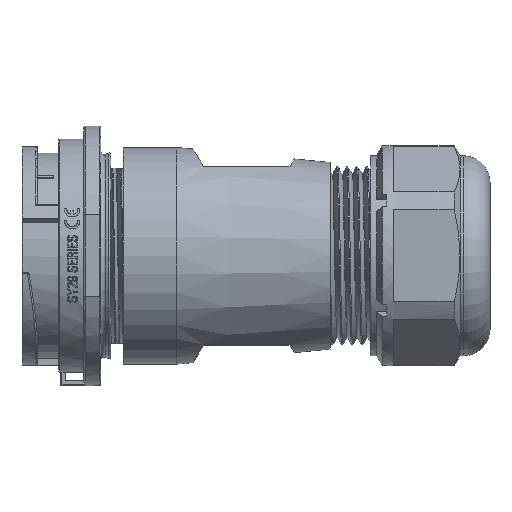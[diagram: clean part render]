
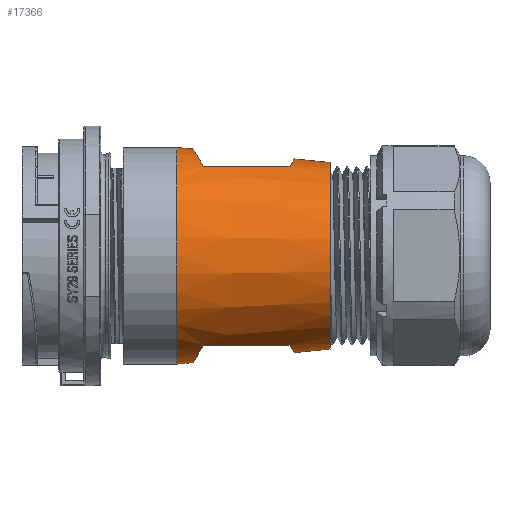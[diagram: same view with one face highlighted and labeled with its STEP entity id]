
A CAD part, top view. The second image highlights one B-rep face of the part: STEP entity #17366.
In plain terms, the highlighted conical face has half-angle 5.587 degrees and reference radius 15.125 mm.
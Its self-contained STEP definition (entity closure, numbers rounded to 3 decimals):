
#5836=CARTESIAN_POINT('',(23.2,22.406,-22.407));
#5837=DIRECTION('',(1.,0.,0.));
#5838=DIRECTION('',(0.,1.,0.));
#5839=AXIS2_PLACEMENT_3D('',#5836,#5837,#5838);
#5841=CARTESIAN_POINT('',(25.695,38.412,-22.407));
#5842=CARTESIAN_POINT('',(25.695,38.412,-20.82));
#5843=CARTESIAN_POINT('',(25.976,37.927,-17.84));
#5844=CARTESIAN_POINT('',(26.711,36.653,-15.174));
#5845=CARTESIAN_POINT('',(27.2,35.806,-13.925));
#5847=CARTESIAN_POINT('',(40.2,35.806,-16.643));
#5848=CARTESIAN_POINT('',(38.928,35.806,-16.328));
#5849=CARTESIAN_POINT('',(36.268,35.806,-15.713));
#5850=CARTESIAN_POINT('',(31.942,35.806,-14.814));
#5851=CARTESIAN_POINT('',(28.819,35.806,-14.221));
#5852=CARTESIAN_POINT('',(27.2,35.806,-13.925));
#5854=CARTESIAN_POINT('',(40.849,36.93,-22.407));
#5855=CARTESIAN_POINT('',(40.849,36.93,-20.389));
#5856=CARTESIAN_POINT('',(40.627,36.547,-18.47));
#5857=CARTESIAN_POINT('',(40.2,35.806,-16.643));
#5859=CARTESIAN_POINT('',(46.2,22.406,-22.407));
#5860=DIRECTION('',(1.,0.,0.));
#5861=DIRECTION('',(0.,1.,0.));
#5862=AXIS2_PLACEMENT_3D('',#5859,#5860,#5861);
#5864=CARTESIAN_POINT('',(40.2,9.006,-16.643));
#5865=CARTESIAN_POINT('',(40.627,8.266,-18.47));
#5866=CARTESIAN_POINT('',(40.849,7.883,-20.389));
#5867=CARTESIAN_POINT('',(40.849,7.883,-22.407));
#5869=CARTESIAN_POINT('',(27.2,9.006,-13.925));
#5870=CARTESIAN_POINT('',(28.819,9.006,-14.221));
#5871=CARTESIAN_POINT('',(31.942,9.006,-14.814));
#5872=CARTESIAN_POINT('',(36.268,9.006,-15.713));
#5873=CARTESIAN_POINT('',(38.928,9.006,-16.328));
#5874=CARTESIAN_POINT('',(40.2,9.006,-16.643));
#5876=CARTESIAN_POINT('',(27.2,9.006,-13.925));
#5877=CARTESIAN_POINT('',(26.711,8.159,-15.174));
#5878=CARTESIAN_POINT('',(25.976,6.885,-17.84));
#5879=CARTESIAN_POINT('',(25.695,6.4,-20.82));
#5880=CARTESIAN_POINT('',(25.695,6.4,-22.407));
#5888=DIRECTION('',(-0.995,0.097,0.));
#5889=VECTOR('',#5888,2.507);
#5890=CARTESIAN_POINT('',(25.695,38.412,-22.407));
#5891=LINE('',#5890,#5889);
#5892=DIRECTION('',(-0.995,-0.097,0.));
#5893=VECTOR('',#5892,2.507);
#5894=CARTESIAN_POINT('',(25.695,6.4,-22.407));
#5895=LINE('',#5894,#5893);
#5914=DIRECTION('',(-0.995,-0.097,0.));
#5915=VECTOR('',#5914,5.377);
#5916=CARTESIAN_POINT('',(46.2,8.406,-22.407));
#5917=LINE('',#5916,#5915);
#5923=DIRECTION('',(-0.995,0.097,0.));
#5924=VECTOR('',#5923,5.377);
#5925=CARTESIAN_POINT('',(46.2,36.406,-22.407));
#5926=LINE('',#5925,#5924);
#9391=CARTESIAN_POINT('',(23.2,38.656,-22.407));
#9393=VERTEX_POINT('',#9391);
#9395=CARTESIAN_POINT('',(23.2,6.156,-22.407));
#9397=VERTEX_POINT('',#9395);
#9399=CARTESIAN_POINT('',(46.2,36.406,-22.407));
#9400=CARTESIAN_POINT('',(46.2,8.406,-22.407));
#9401=VERTEX_POINT('',#9399);
#9402=VERTEX_POINT('',#9400);
#9403=VERTEX_POINT('',#5841);
#9404=VERTEX_POINT('',#5845);
#9405=VERTEX_POINT('',#5847);
#9406=VERTEX_POINT('',#5854);
#9407=VERTEX_POINT('',#5864);
#9408=VERTEX_POINT('',#5867);
#9409=VERTEX_POINT('',#5869);
#9410=VERTEX_POINT('',#5880);
#17336=CARTESIAN_POINT('',(34.7,22.406,-22.407));
#17337=DIRECTION('',(-1.,0.,0.));
#17338=DIRECTION('',(0.,1.,0.));
#17339=AXIS2_PLACEMENT_3D('',#17336,#17337,#17338);
#17340=CONICAL_SURFACE('',#17339,15.125,5.587);
#17342=ORIENTED_EDGE('',*,*,#17341,.T.);
#17344=ORIENTED_EDGE('',*,*,#17343,.F.);
#17346=ORIENTED_EDGE('',*,*,#17345,.F.);
#17348=ORIENTED_EDGE('',*,*,#17347,.F.);
#17350=ORIENTED_EDGE('',*,*,#17349,.T.);
#17352=ORIENTED_EDGE('',*,*,#17351,.T.);
#17354=ORIENTED_EDGE('',*,*,#17353,.F.);
#17356=ORIENTED_EDGE('',*,*,#17355,.F.);
#17358=ORIENTED_EDGE('',*,*,#17357,.T.);
#17360=ORIENTED_EDGE('',*,*,#17359,.T.);
#17361=ORIENTED_EDGE('',*,*,#17329,.F.);
#17363=ORIENTED_EDGE('',*,*,#17362,.F.);
#17364=EDGE_LOOP('',(#17342,#17344,#17346,#17348,#17350,#17352,#17354,#17356,
#17358,#17360,#17361,#17363));
#17365=FACE_OUTER_BOUND('',#17364,.F.);
#5840=CIRCLE('',#5839,16.25);
#5846=B_SPLINE_CURVE_WITH_KNOTS('',3,(#5841,#5842,#5843,#5844,#5845),
.UNSPECIFIED.,.F.,.F.,(4,1,4),(0.,0.5,1.),.UNSPECIFIED.);
#5853=B_SPLINE_CURVE_WITH_KNOTS('',3,(#5847,#5848,#5849,#5850,#5851,#5852),
.UNSPECIFIED.,.F.,.F.,(4,1,1,4),(0.,0.333,0.667,1.),
.UNSPECIFIED.);
#5858=B_SPLINE_CURVE_WITH_KNOTS('',3,(#5854,#5855,#5856,#5857),.UNSPECIFIED.,
.F.,.F.,(4,4),(0.,1.),.UNSPECIFIED.);
#5863=CIRCLE('',#5862,14.);
#5868=B_SPLINE_CURVE_WITH_KNOTS('',3,(#5864,#5865,#5866,#5867),.UNSPECIFIED.,
.F.,.F.,(4,4),(0.,1.),.UNSPECIFIED.);
#5875=B_SPLINE_CURVE_WITH_KNOTS('',3,(#5869,#5870,#5871,#5872,#5873,#5874),
.UNSPECIFIED.,.F.,.F.,(4,1,1,4),(0.,0.333,0.667,1.),
.UNSPECIFIED.);
#5881=B_SPLINE_CURVE_WITH_KNOTS('',3,(#5876,#5877,#5878,#5879,#5880),
.UNSPECIFIED.,.F.,.F.,(4,1,4),(0.,0.5,1.),.UNSPECIFIED.);
#17329=EDGE_CURVE('',#9393,#9397,#5840,.T.);
#17341=EDGE_CURVE('',#9403,#9404,#5846,.T.);
#17343=EDGE_CURVE('',#9405,#9404,#5853,.T.);
#17345=EDGE_CURVE('',#9406,#9405,#5858,.T.);
#17347=EDGE_CURVE('',#9401,#9406,#5926,.T.);
#17349=EDGE_CURVE('',#9401,#9402,#5863,.T.);
#17351=EDGE_CURVE('',#9402,#9408,#5917,.T.);
#17353=EDGE_CURVE('',#9407,#9408,#5868,.T.);
#17355=EDGE_CURVE('',#9409,#9407,#5875,.T.);
#17357=EDGE_CURVE('',#9409,#9410,#5881,.T.);
#17359=EDGE_CURVE('',#9410,#9397,#5895,.T.);
#17362=EDGE_CURVE('',#9403,#9393,#5891,.T.);
#17366=ADVANCED_FACE('',(#17365),#17340,.T.);
